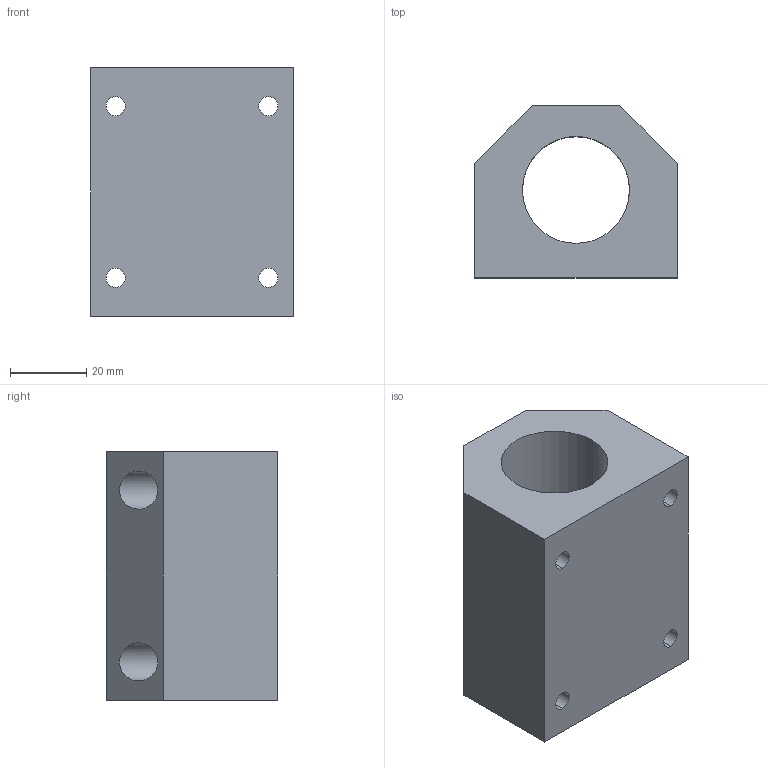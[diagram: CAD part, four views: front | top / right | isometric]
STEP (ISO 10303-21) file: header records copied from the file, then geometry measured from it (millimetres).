
FILE_DESCRIPTION (( 'STEP AP203' ), '1' );
FILE_NAME ('KTGC29-20-1.SLDPRT.step', '2020-05-14T10:54:18', ( '' ), ( '' ), 'SwSTEP 2.0', 'SolidWorks 2019', '' );
FILE_SCHEMA (( 'CONFIG_CONTROL_DESIGN' ));
Length unit declared in the file: millimetre
Products named in the file (2): KTGC29-20-1.SLDPRT
Bounding box: 53 x 45 x 65 mm (x, y, z)
Volume: 93532.5 mm3; surface area: 23561 mm2
Topology: 1 solids, 1 shells, 32 faces, 78 edges, 52 vertices
Faces by surface type: cylinder 20, plane 12
Entity records: 1191 total; most frequent: CARTESIAN_POINT 252, DIRECTION 166, ORIENTED_EDGE 156, EDGE_CURVE 78, AXIS2_PLACEMENT_3D 64, VERTEX_POINT 52, EDGE_LOOP 48, LINE 38
